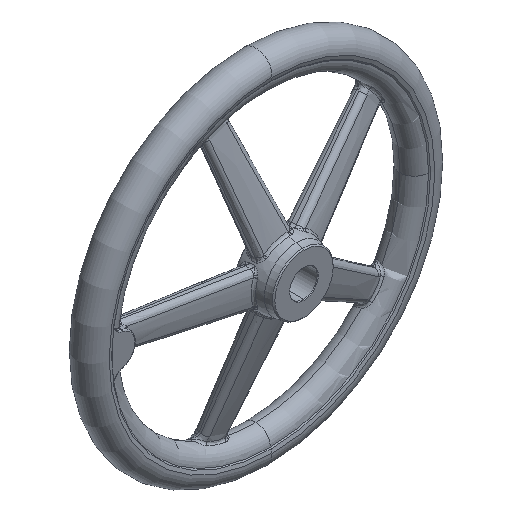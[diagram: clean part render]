
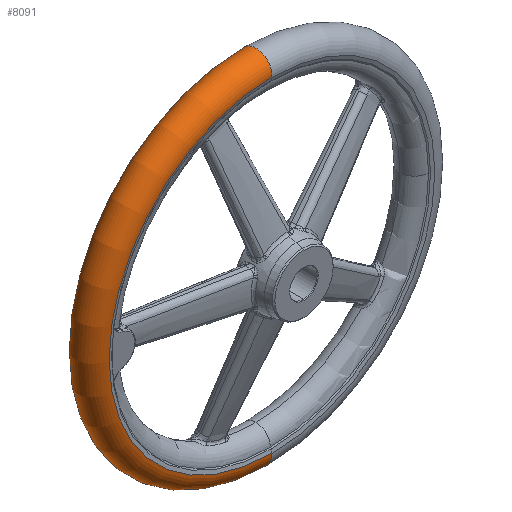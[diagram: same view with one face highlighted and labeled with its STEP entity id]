
A CAD part, isometric view. The second image highlights one B-rep face of the part: STEP entity #8091.
In plain terms, the highlighted toroidal (fillet/blend) face has major radius 143.462 mm and minor radius 14.039 mm.
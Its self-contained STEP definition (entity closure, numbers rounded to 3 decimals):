
#1704 = VERTEX_POINT ( 'NONE', #16882 ) ;
#1712 = VERTEX_POINT ( 'NONE', #16975 ) ;
#5721 = DIRECTION ( 'NONE',  ( 0., -1., 0. ) ) ;
#5725 = CARTESIAN_POINT ( 'NONE',  ( 0., 42., 0. ) ) ;
#5744 = TOROIDAL_SURFACE ( 'NONE', #5758, 143.462, 14.038 ) ;
#5757 = DIRECTION ( 'NONE',  ( 0., 0., -1. ) ) ;
#5758 = AXIS2_PLACEMENT_3D ( 'NONE', #5725, #5721, #5757 ) ;
#5763 = FACE_OUTER_BOUND ( 'NONE', #7992, .T. ) ;
#7970 = ORIENTED_EDGE ( 'NONE', *, *, #39400, .F. ) ;
#7992 = EDGE_LOOP ( 'NONE', ( #7970, #8095, #8077, #8083 ) ) ;
#8077 = ORIENTED_EDGE ( 'NONE', *, *, #39402, .T. ) ;
#8083 = ORIENTED_EDGE ( 'NONE', *, *, #39446, .F. ) ;
#8091 = ADVANCED_FACE ( 'NONE', ( #5763 ), #5744, .T. ) ;
#8095 = ORIENTED_EDGE ( 'NONE', *, *, #39324, .T. ) ;
#16882 = CARTESIAN_POINT ( 'NONE',  ( 0., 28., -142.423 ) ) ;
#16975 = CARTESIAN_POINT ( 'NONE',  ( 0., 28., 142.423 ) ) ;
#22461 = CARTESIAN_POINT ( 'NONE',  ( 0., 56., -142.423 ) ) ;
#22525 = CARTESIAN_POINT ( 'NONE',  ( 0., 56., 142.423 ) ) ;
#23032 = CIRCLE ( 'NONE', #23067, 142.423 ) ;
#23064 = DIRECTION ( 'NONE',  ( 0., 0., -1. ) ) ;
#23065 = DIRECTION ( 'NONE',  ( 0., -1., 0. ) ) ;
#23066 = CARTESIAN_POINT ( 'NONE',  ( 0., 56., 0. ) ) ;
#23067 = AXIS2_PLACEMENT_3D ( 'NONE', #23066, #23065, #23064 ) ;
#23301 = DIRECTION ( 'NONE',  ( 0., 0., 1. ) ) ;
#23302 = DIRECTION ( 'NONE',  ( -1., 0., 0. ) ) ;
#23304 = DIRECTION ( 'NONE',  ( 0., 0., -1. ) ) ;
#23305 = DIRECTION ( 'NONE',  ( 1., 0., 0. ) ) ;
#23306 = AXIS2_PLACEMENT_3D ( 'NONE', #23319, #23305, #23304 ) ;
#23307 = CIRCLE ( 'NONE', #23306, 14.038 ) ;
#23308 = CARTESIAN_POINT ( 'NONE',  ( 0., 42., -143.462 ) ) ;
#23311 = CIRCLE ( 'NONE', #23321, 14.038 ) ;
#23319 = CARTESIAN_POINT ( 'NONE',  ( 0., 42., 143.462 ) ) ;
#23321 = AXIS2_PLACEMENT_3D ( 'NONE', #23308, #23302, #23301 ) ;
#23751 = CIRCLE ( 'NONE', #23871, 142.423 ) ;
#23869 = DIRECTION ( 'NONE',  ( 0., 0., -1. ) ) ;
#23870 = DIRECTION ( 'NONE',  ( 0., -1., 0. ) ) ;
#23871 = AXIS2_PLACEMENT_3D ( 'NONE', #23891, #23870, #23869 ) ;
#23891 = CARTESIAN_POINT ( 'NONE',  ( 0., 28., 0. ) ) ;
#39262 = VERTEX_POINT ( 'NONE', #22461 ) ;
#39264 = VERTEX_POINT ( 'NONE', #22525 ) ;
#39324 = EDGE_CURVE ( 'NONE', #39264, #39262, #23032, .T. ) ;
#39400 = EDGE_CURVE ( 'NONE', #39264, #1712, #23307, .T. ) ;
#39402 = EDGE_CURVE ( 'NONE', #39262, #1704, #23311, .T. ) ;
#39446 = EDGE_CURVE ( 'NONE', #1712, #1704, #23751, .T. ) ;
